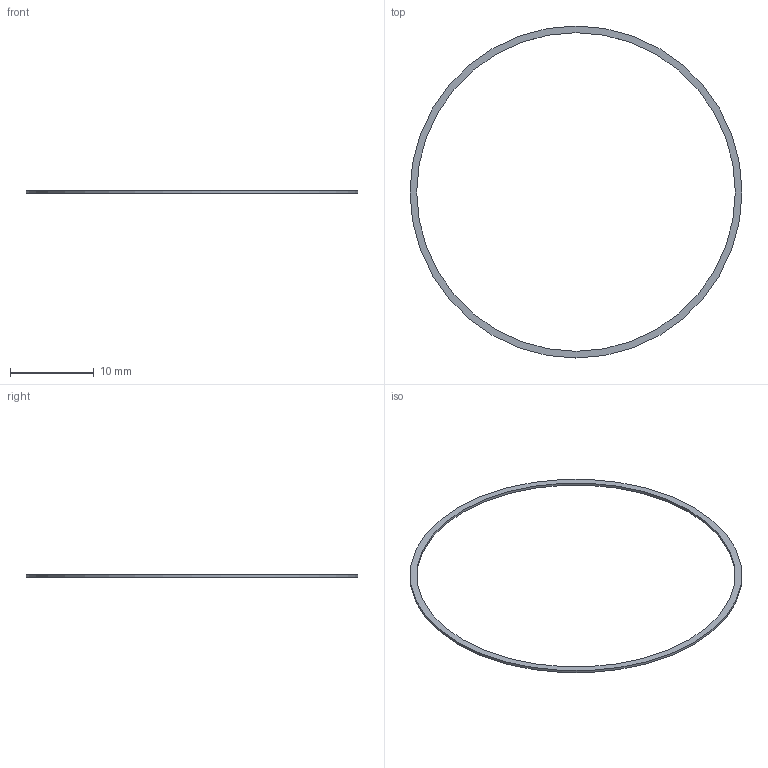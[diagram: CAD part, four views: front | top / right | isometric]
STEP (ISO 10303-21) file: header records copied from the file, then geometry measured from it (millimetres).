
FILE_DESCRIPTION(('Open CASCADE Model'),'2;1');
FILE_NAME('C27_R2_Speaker_Front_Gasket_FREE_STATE','2026-09-10T02:58:45' ,('Author'),('Open CASCADE'),'Open CASCADE STEP processor 7.9', 'build123d','Unknown');
FILE_SCHEMA(('AUTOMOTIVE_DESIGN { 1 0 10303 214 1 1 1 1 }'));
Length unit declared in the file: millimetre
Products named in the file (1): C27_R2_Speaker_Front_Gasket_FREE_STATE
Bounding box: 39.6 x 39.6 x 0.3 mm (x, y, z)
Volume: 29.3 mm3; surface area: 268.2 mm2
Topology: 1 solids, 1 shells, 4 faces, 6 edges, 4 vertices
Faces by surface type: cylinder 2, plane 2
Full cylindrical faces by diameter (mm): 38 x1, 39.6 x1
Entity records: 197 total; most frequent: DIRECTION 32, CARTESIAN_POINT 27, ORIENTED_EDGE 12, PCURVE 12, DEFINITIONAL_REPRESENTATION 12, LINE 10, VECTOR 10, AXIS2_PLACEMENT_3D 9
